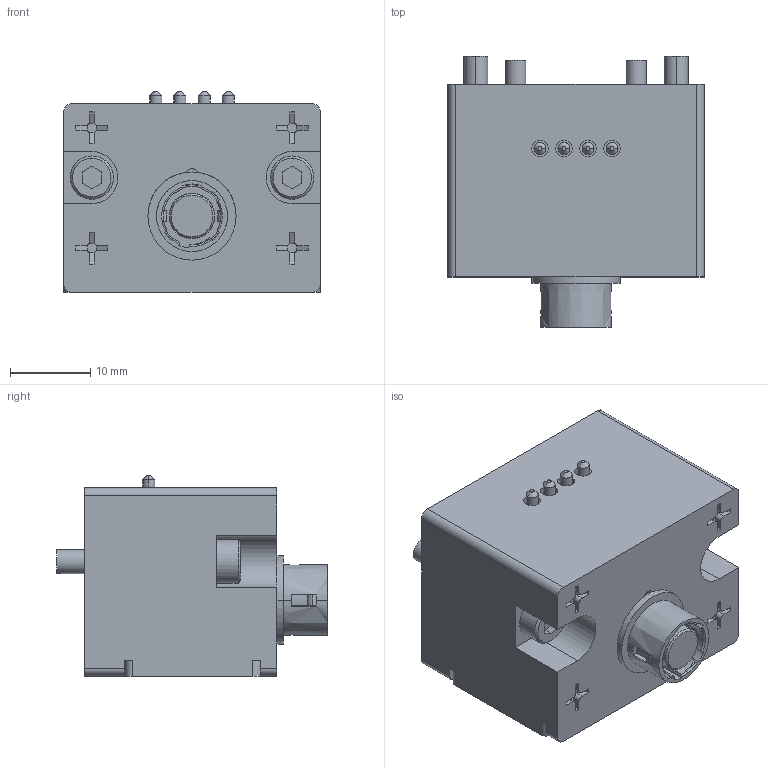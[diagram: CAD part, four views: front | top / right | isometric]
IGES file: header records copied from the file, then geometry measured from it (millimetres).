
Start section: 3D InterOp IGES (v. 2022 1.0.0), Spatial Corp. Copyright (c) 1999-2020.
Global section: file name: KHF-12HS-D14C_ver1.igs; native system: Spatial Corp.; preprocessor: 3D InterOp GENERIC/IGES 3.0; author: Noname; organization: Noname; date: 20260427.104442; units: millimetre
Bounding box: 32 x 33.8 x 25 mm (x, y, z)
Surface area: 6254.6 mm2 (no closed solid volume)
Topology: 0 solids, 0 shells, 526 faces, 2662 edges, 2661 vertices
Faces by surface type: extrusion 318, revolution 208
